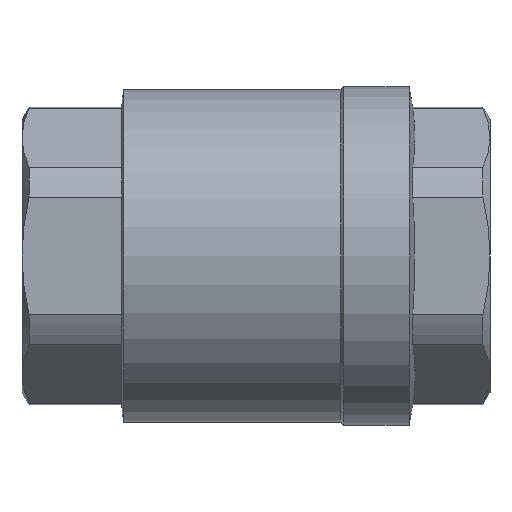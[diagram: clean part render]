
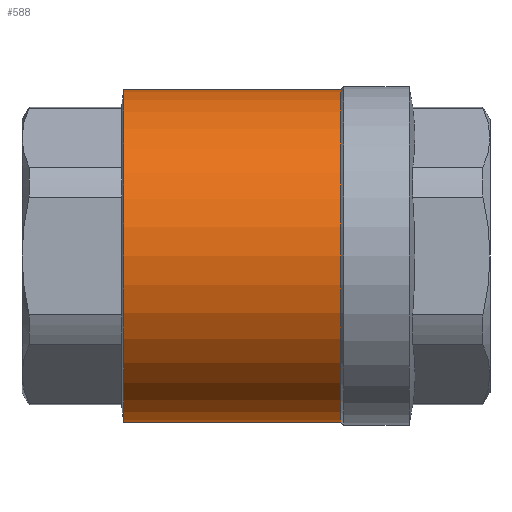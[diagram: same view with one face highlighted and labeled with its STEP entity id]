
A CAD part, front view. The second image highlights one B-rep face of the part: STEP entity #588.
In plain terms, the highlighted cylindrical face has radius 78.5 mm (diameter 157 mm), a partial arc.
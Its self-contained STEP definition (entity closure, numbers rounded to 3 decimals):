
#27 = DIRECTION ( 'NONE',  ( 0., 0., 1. ) ) ;
#105 = CARTESIAN_POINT ( 'NONE',  ( -55.019, 0., 78.5 ) ) ;
#139 = CIRCLE ( 'NONE', #2935, 78.5 ) ;
#402 = CIRCLE ( 'NONE', #1389, 78.5 ) ;
#551 = EDGE_LOOP ( 'NONE', ( #1730, #1116, #2735, #1920 ) ) ;
#584 = FACE_OUTER_BOUND ( 'NONE', #551, .T. ) ;
#588 = ADVANCED_FACE ( 'NONE', ( #584 ), #1957, .T. ) ;
#751 = CARTESIAN_POINT ( 'NONE',  ( 40., 0., 78.5 ) ) ;
#821 = VERTEX_POINT ( 'NONE', #751 ) ;
#919 = DIRECTION ( 'NONE',  ( -1., 0., 0. ) ) ;
#975 = DIRECTION ( 'NONE',  ( -1., 0., 0. ) ) ;
#1116 = ORIENTED_EDGE ( 'NONE', *, *, #1216, .T. ) ;
#1216 = EDGE_CURVE ( 'NONE', #1281, #821, #402, .T. ) ;
#1281 = VERTEX_POINT ( 'NONE', #3221 ) ;
#1287 = EDGE_CURVE ( 'NONE', #1801, #1546, #139, .T. ) ;
#1301 = CARTESIAN_POINT ( 'NONE',  ( -55.019, 0., 0. ) ) ;
#1389 = AXIS2_PLACEMENT_3D ( 'NONE', #3492, #1751, #27 ) ;
#1445 = LINE ( 'NONE', #105, #3684 ) ;
#1546 = VERTEX_POINT ( 'NONE', #2688 ) ;
#1576 = EDGE_CURVE ( 'NONE', #821, #1546, #1445, .T. ) ;
#1670 = CARTESIAN_POINT ( 'NONE',  ( -62.5, 0., -78.5 ) ) ;
#1730 = ORIENTED_EDGE ( 'NONE', *, *, #2729, .F. ) ;
#1751 = DIRECTION ( 'NONE',  ( -1., 0., 0. ) ) ;
#1801 = VERTEX_POINT ( 'NONE', #1670 ) ;
#1874 = DIRECTION ( 'NONE',  ( -1., 0., 0. ) ) ;
#1920 = ORIENTED_EDGE ( 'NONE', *, *, #1287, .F. ) ;
#1950 = LINE ( 'NONE', #2456, #2699 ) ;
#1957 = CYLINDRICAL_SURFACE ( 'NONE', #3159, 78.5 ) ;
#2456 = CARTESIAN_POINT ( 'NONE',  ( -55.019, 0., -78.5 ) ) ;
#2644 = CARTESIAN_POINT ( 'NONE',  ( -62.5, 0., 0. ) ) ;
#2688 = CARTESIAN_POINT ( 'NONE',  ( -62.5, 0., 78.5 ) ) ;
#2699 = VECTOR ( 'NONE', #1874, 1000. ) ;
#2729 = EDGE_CURVE ( 'NONE', #1281, #1801, #1950, .T. ) ;
#2732 = DIRECTION ( 'NONE',  ( -1., 0., 0. ) ) ;
#2735 = ORIENTED_EDGE ( 'NONE', *, *, #1576, .T. ) ;
#2935 = AXIS2_PLACEMENT_3D ( 'NONE', #2644, #919, #2937 ) ;
#2937 = DIRECTION ( 'NONE',  ( 0., 0., 1. ) ) ;
#3046 = DIRECTION ( 'NONE',  ( 0., 0., 1. ) ) ;
#3159 = AXIS2_PLACEMENT_3D ( 'NONE', #1301, #2732, #3046 ) ;
#3221 = CARTESIAN_POINT ( 'NONE',  ( 40., 0., -78.5 ) ) ;
#3492 = CARTESIAN_POINT ( 'NONE',  ( 40., 0., 0. ) ) ;
#3684 = VECTOR ( 'NONE', #975, 1000. ) ;
